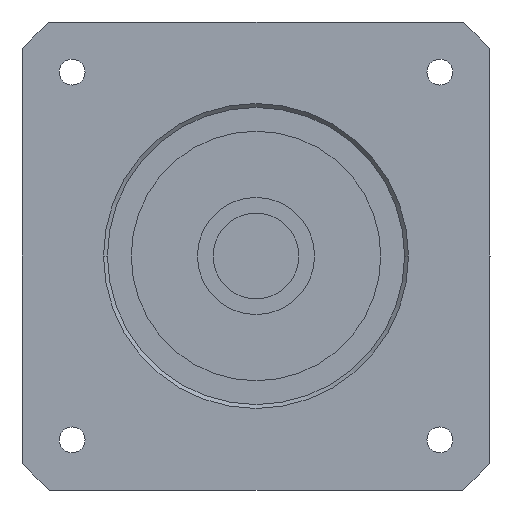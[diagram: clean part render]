
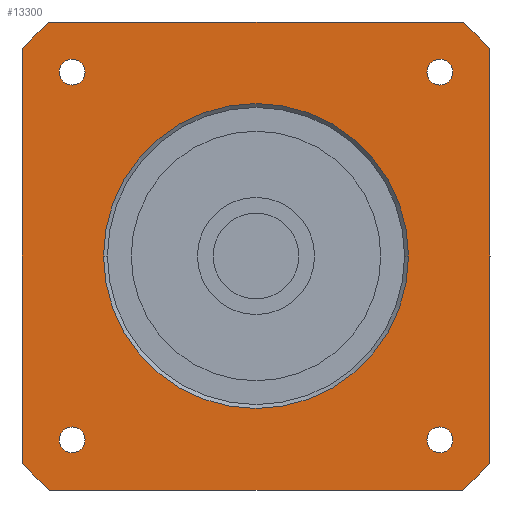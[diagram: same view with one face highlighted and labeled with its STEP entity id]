
A CAD part, left-side view. The second image highlights one B-rep face of the part: STEP entity #13300.
In plain terms, the highlighted planar face has unit normal (-1, 0, 0) as drawn and (0, 0, -1) by its records, which use the part's own axes.
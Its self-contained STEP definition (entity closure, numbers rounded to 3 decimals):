
#8700=CARTESIAN_POINT('',(-23.571,25.221,-34.));
#8710=VERTEX_POINT('',#8700);
#8870=CARTESIAN_POINT('',(-23.571,21.921,-34.));
#8880=VERTEX_POINT('',#8870);
#8910=CARTESIAN_POINT('',(-23.571,23.571,-34.));
#8920=DIRECTION('',(0.,0.,1.));
#8930=DIRECTION('',(0.,1.,0.));
#8940=AXIS2_PLACEMENT_3D('',#8910,#8920,#8930);
#8950=CIRCLE('',#8940,1.65);
#8960=EDGE_CURVE('',#8880,#8710,#8950,.T.);
#9120=CARTESIAN_POINT('',(23.571,25.221,-34.));
#9130=VERTEX_POINT('',#9120);
#9290=CARTESIAN_POINT('',(23.571,21.921,-34.));
#9300=VERTEX_POINT('',#9290);
#9330=CARTESIAN_POINT('',(23.571,23.571,-34.));
#9340=DIRECTION('',(0.,0.,1.));
#9350=DIRECTION('',(0.,1.,0.));
#9360=AXIS2_PLACEMENT_3D('',#9330,#9340,#9350);
#9370=CIRCLE('',#9360,1.65);
#9380=EDGE_CURVE('',#9300,#9130,#9370,.T.);
#11780=CARTESIAN_POINT('',(19.55,0.,-34.));
#11790=VERTEX_POINT('',#11780);
#11820=CARTESIAN_POINT('',(0.,0.,
-34.));
#11830=DIRECTION('',(0.,0.,1.));
#11840=DIRECTION('',(0.,1.,0.));
#11850=AXIS2_PLACEMENT_3D('',#11820,#11830,#11840);
#11860=CIRCLE('',#11850,19.55);
#11870=CARTESIAN_POINT('',(0.,19.55,-34.));
#11880=VERTEX_POINT('',#11870);
#11890=EDGE_CURVE('',#11790,#11880,#11860,.T.);
#11910=CARTESIAN_POINT('',(-19.55,0.,-34.));
#11920=VERTEX_POINT('',#11910);
#11930=EDGE_CURVE('',#11880,#11920,#11860,.T.);
#12090=CARTESIAN_POINT('',(30.,-30.,-34.));
#12100=DIRECTION('',(0.,0.,1.));
#12110=DIRECTION('',(0.,1.,0.));
#12120=AXIS2_PLACEMENT_3D('',#12090,#12100,#12110);
#12130=PLANE('',#12120);
#12140=CARTESIAN_POINT('',(-23.571,-23.571,-34.));
#12150=DIRECTION('',(0.,0.,1.));
#12160=DIRECTION('',(0.,1.,0.));
#12170=AXIS2_PLACEMENT_3D('',#12140,#12150,#12160);
#12180=CIRCLE('',#12170,1.65);
#12190=CARTESIAN_POINT('',(-23.571,-21.921,-34.));
#12200=VERTEX_POINT('',#12190);
#12210=CARTESIAN_POINT('',(-23.571,-25.221,-34.));
#12220=VERTEX_POINT('',#12210);
#12230=EDGE_CURVE('',#12200,#12220,#12180,.T.);
#12240=ORIENTED_EDGE('',*,*,#12230,.T.);
#12250=EDGE_CURVE('',#12220,#12200,#12180,.T.);
#12260=ORIENTED_EDGE('',*,*,#12250,.T.);
#12270=EDGE_LOOP('',(#12260,#12240));
#12280=FACE_BOUND('',#12270,.T.);
#12290=CARTESIAN_POINT('',(23.571,-23.571,-34.));
#12300=DIRECTION('',(0.,0.,1.));
#12310=DIRECTION('',(0.,1.,0.));
#12320=AXIS2_PLACEMENT_3D('',#12290,#12300,#12310);
#12330=CIRCLE('',#12320,1.65);
#12340=CARTESIAN_POINT('',(23.571,-21.921,-34.));
#12350=VERTEX_POINT('',#12340);
#12360=CARTESIAN_POINT('',(23.571,-25.221,-34.));
#12370=VERTEX_POINT('',#12360);
#12380=EDGE_CURVE('',#12350,#12370,#12330,.T.);
#12390=ORIENTED_EDGE('',*,*,#12380,.T.);
#12400=EDGE_CURVE('',#12370,#12350,#12330,.T.);
#12410=ORIENTED_EDGE('',*,*,#12400,.T.);
#12420=EDGE_LOOP('',(#12410,#12390));
#12430=FACE_BOUND('',#12420,.T.);
#12440=EDGE_CURVE('',#9130,#9300,#9370,.T.);
#12450=ORIENTED_EDGE('',*,*,#12440,.T.);
#12460=ORIENTED_EDGE('',*,*,#9380,.T.);
#12470=EDGE_LOOP('',(#12460,#12450));
#12480=FACE_BOUND('',#12470,.T.);
#12490=EDGE_CURVE('',#8710,#8880,#8950,.T.);
#12500=ORIENTED_EDGE('',*,*,#12490,.T.);
#12510=ORIENTED_EDGE('',*,*,#8960,.T.);
#12520=EDGE_LOOP('',(#12510,#12500));
#12530=FACE_BOUND('',#12520,.T.);
#12540=EDGE_CURVE('',#11920,#11790,#11860,.T.);
#12550=ORIENTED_EDGE('',*,*,#12540,.T.);
#12560=ORIENTED_EDGE('',*,*,#11930,.T.);
#12570=ORIENTED_EDGE('',*,*,#11890,.T.);
#12580=EDGE_LOOP('',(#12570,#12560,#12550));
#12590=FACE_BOUND('',#12580,.T.);
#12600=CARTESIAN_POINT('',(0.,0.,
-34.));
#12610=DIRECTION('',(0.,0.,1.));
#12620=DIRECTION('',(0.,1.,0.));
#12630=AXIS2_PLACEMENT_3D('',#12600,#12610,#12620);
#12640=CIRCLE('',#12630,40.);
#12650=CARTESIAN_POINT('',(-26.458,30.,-34.));
#12660=VERTEX_POINT('',#12650);
#12670=CARTESIAN_POINT('',(-30.,26.458,-34.));
#12680=VERTEX_POINT('',#12670);
#12690=EDGE_CURVE('',#12660,#12680,#12640,.T.);
#12700=ORIENTED_EDGE('',*,*,#12690,.F.);
#12710=CARTESIAN_POINT('',(-30.,30.,-34.));
#12720=DIRECTION('',(0.,-1.,0.));
#12730=VECTOR('',#12720,1000.);
#12740=LINE('',#12710,#12730);
#12750=CARTESIAN_POINT('',(-30.,-26.458,-34.));
#12760=VERTEX_POINT('',#12750);
#12770=EDGE_CURVE('',#12680,#12760,#12740,.T.);
#12780=ORIENTED_EDGE('',*,*,#12770,.F.);
#12790=CARTESIAN_POINT('',(0.,0.,
-34.));
#12800=DIRECTION('',(0.,0.,1.));
#12810=DIRECTION('',(0.,1.,0.));
#12820=AXIS2_PLACEMENT_3D('',#12790,#12800,#12810);
#12830=CIRCLE('',#12820,40.);
#12840=CARTESIAN_POINT('',(-26.458,-30.,-34.));
#12850=VERTEX_POINT('',#12840);
#12860=EDGE_CURVE('',#12760,#12850,#12830,.T.);
#12870=ORIENTED_EDGE('',*,*,#12860,.F.);
#12880=CARTESIAN_POINT('',(-30.,-30.,-34.));
#12890=DIRECTION('',(1.,0.,0.));
#12900=VECTOR('',#12890,1000.);
#12910=LINE('',#12880,#12900);
#12920=CARTESIAN_POINT('',(26.458,-30.,-34.));
#12930=VERTEX_POINT('',#12920);
#12940=EDGE_CURVE('',#12850,#12930,#12910,.T.);
#12950=ORIENTED_EDGE('',*,*,#12940,.F.);
#12960=CARTESIAN_POINT('',(0.,0.,
-34.));
#12970=DIRECTION('',(0.,0.,1.));
#12980=DIRECTION('',(0.,1.,0.));
#12990=AXIS2_PLACEMENT_3D('',#12960,#12970,#12980);
#13000=CIRCLE('',#12990,40.);
#13010=CARTESIAN_POINT('',(30.,-26.458,-34.));
#13020=VERTEX_POINT('',#13010);
#13030=EDGE_CURVE('',#12930,#13020,#13000,.T.);
#13040=ORIENTED_EDGE('',*,*,#13030,.F.);
#13050=CARTESIAN_POINT('',(30.,-30.,-34.));
#13060=DIRECTION('',(0.,1.,0.));
#13070=VECTOR('',#13060,1000.);
#13080=LINE('',#13050,#13070);
#13090=CARTESIAN_POINT('',(30.,26.458,-34.));
#13100=VERTEX_POINT('',#13090);
#13110=EDGE_CURVE('',#13020,#13100,#13080,.T.);
#13120=ORIENTED_EDGE('',*,*,#13110,.F.);
#13130=CARTESIAN_POINT('',(0.,0.,
-34.));
#13140=DIRECTION('',(0.,0.,1.));
#13150=DIRECTION('',(0.,1.,0.));
#13160=AXIS2_PLACEMENT_3D('',#13130,#13140,#13150);
#13170=CIRCLE('',#13160,40.);
#13180=CARTESIAN_POINT('',(26.458,30.,-34.));
#13190=VERTEX_POINT('',#13180);
#13200=EDGE_CURVE('',#13100,#13190,#13170,.T.);
#13210=ORIENTED_EDGE('',*,*,#13200,.F.);
#13220=CARTESIAN_POINT('',(30.,30.,-34.));
#13230=DIRECTION('',(-1.,0.,0.));
#13240=VECTOR('',#13230,1000.);
#13250=LINE('',#13220,#13240);
#13260=EDGE_CURVE('',#13190,#12660,#13250,.T.);
#13270=ORIENTED_EDGE('',*,*,#13260,.F.);
#13280=EDGE_LOOP('',(#13270,#13210,#13120,#13040,#12950,#12870,#12780,
#12700));
#13290=FACE_OUTER_BOUND('',#13280,.T.);
#13300=ADVANCED_FACE('',(#12280,#12430,#12480,#12530,#12590,#13290),
#12130,.F.);
